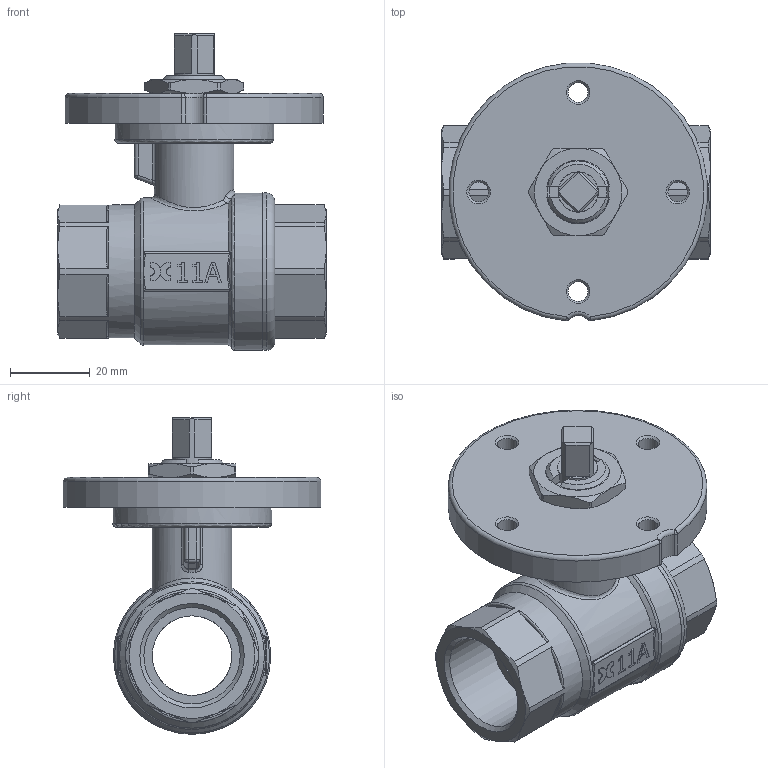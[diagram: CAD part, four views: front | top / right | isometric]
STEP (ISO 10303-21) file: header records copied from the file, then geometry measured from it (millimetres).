
FILE_DESCRIPTION((''),'2;1');
FILE_NAME('C:\Documents and Settings\ut4\Desktop\TICOM ULTIMATE\Valv. mot. 034 PM SM.stp','2012-07-16T14:32:16',('ut4'),(''),'Autodesk Inventor 2013','Autodesk Inventor 2013','');
FILE_SCHEMA(('AUTOMOTIVE_DESIGN { 1 0 10303 214 1 1 1 1 }'));
Length unit declared in the file: millimetre
Products named in the file (13): Valv. mot. 034 PM SM; Corpo femmina 034 mot; sfera 034; Ghiera ferma asta mot; Anello antigrip. perno mot. Ø13; Boccola antigrip. perno mot. Ø13; Perno mot. 13 q8; O-ring 9.75x1; sede 034; Manic. femmina-deviatore 034 mot; Dischetto portamotore SM Ø16 lav; O-ring 23.53 x 1; Dado blocca piastra SM1
Assembly tree (15 placements, depth 2):
  Valv. mot. 034 PM SM
    Corpo femmina 034 mot
    sfera 034
    Ghiera ferma asta mot
    Anello antigrip. perno mot. Ø13
    Boccola antigrip. perno mot. Ø13
    Perno mot. 13 q8
    O-ring 9.75x1  x2
    sede 034  x2
    Manic. femmina-deviatore 034 mot
    Dischetto portamotore SM Ø16 lav
    O-ring 23.53 x 1  x2
    Dado blocca piastra SM1
Bounding box: 67.5 x 64.73 x 79.5 mm (x, y, z)
Volume: 70230 mm3; surface area: 44726.4 mm2
Topology: 15 solids, 15 shells, 573 faces, 1403 edges, 865 vertices
Faces by surface type: plane 247, cylinder 137, cone 58, bspline 58, torus 52, sphere 21
Full cylindrical faces by diameter (mm): 4.917 x4, 10 x3, 10.1 x3, 10.4 x2, 11 x1, 11.1 x1, 12.9 x5, 13 x1, 14.5 x2, 15.5 x1, 16 x2, 17 x1, 20 x6, 24 x2, 24.2 x2, 28 x4, 32.5 x1, 33.5 x1, 34 x1, 34.6 x1, 37 x1, 39.5 x2, 40 x1
Entity records: 17769 total; most frequent: CARTESIAN_POINT 4470, DIRECTION 2577, ORIENTED_EDGE 2534, EDGE_CURVE 1267, AXIS2_PLACEMENT_3D 990, VERTEX_POINT 836, EDGE_LOOP 703, VECTOR 597
